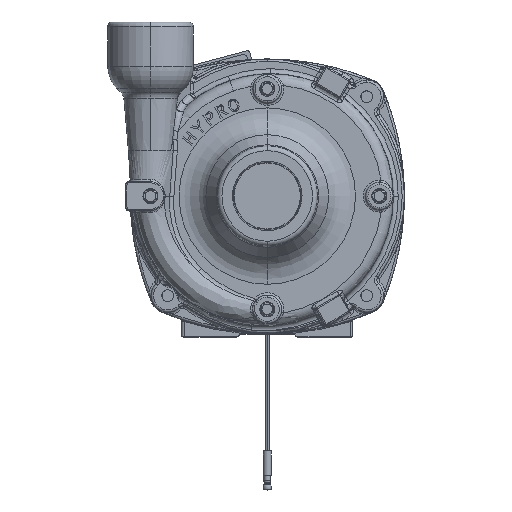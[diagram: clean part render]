
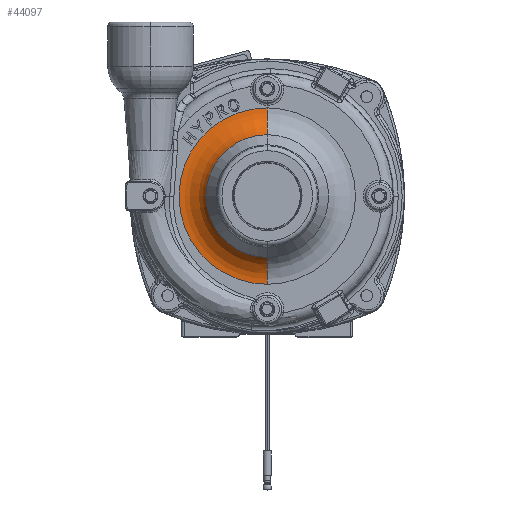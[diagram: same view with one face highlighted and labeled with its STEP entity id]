
A CAD part, top view. The second image highlights one B-rep face of the part: STEP entity #44097.
In plain terms, the highlighted toroidal (fillet/blend) face has major radius 58.725 mm and minor radius 20.637 mm.
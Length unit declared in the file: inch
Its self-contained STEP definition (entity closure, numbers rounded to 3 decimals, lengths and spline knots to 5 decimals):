
#425 = DIRECTION ( 'NONE',  ( 0., 0., -1. ) ) ;
#4830 = EDGE_CURVE ( 'NONE', #12816, #150377, #144360, .T. ) ;
#12426 = DIRECTION ( 'NONE',  ( 0., 0., 1. ) ) ;
#12816 = VERTEX_POINT ( 'NONE', #21680 ) ;
#16632 = CIRCLE ( 'NONE', #116220, 2.312 ) ;
#16841 = EDGE_LOOP ( 'NONE', ( #26885, #57496, #46755, #150636 ) ) ;
#21680 = CARTESIAN_POINT ( 'NONE',  ( 0., -1.60835, 1.71875 ) ) ;
#24569 = DIRECTION ( 'NONE',  ( 0., 1., 0. ) ) ;
#26885 = ORIENTED_EDGE ( 'NONE', *, *, #88121, .F. ) ;
#30838 = CARTESIAN_POINT ( 'NONE',  ( 0., 0., 2.125 ) ) ;
#43820 = AXIS2_PLACEMENT_3D ( 'NONE', #79919, #150300, #24569 ) ;
#44097 = ADVANCED_FACE ( 'NONE', ( #54216 ), #154419, .F. ) ;
#46755 = ORIENTED_EDGE ( 'NONE', *, *, #4830, .T. ) ;
#50178 = CARTESIAN_POINT ( 'NONE',  ( 0., -2.312, 2.125 ) ) ;
#51314 = CIRCLE ( 'NONE', #118622, 0.8125 ) ;
#54216 = FACE_OUTER_BOUND ( 'NONE', #16841, .T. ) ;
#57496 = ORIENTED_EDGE ( 'NONE', *, *, #105628, .T. ) ;
#73679 = DIRECTION ( 'NONE',  ( 0., 0., -1. ) ) ;
#79919 = CARTESIAN_POINT ( 'NONE',  ( 0., 0., 1.71875 ) ) ;
#81882 = EDGE_CURVE ( 'NONE', #166208, #150377, #51314, .T. ) ;
#83328 = DIRECTION ( 'NONE',  ( -1., 0., 0. ) ) ;
#85615 = CARTESIAN_POINT ( 'NONE',  ( 0., 0., 1.3125 ) ) ;
#88121 = EDGE_CURVE ( 'NONE', #122903, #166208, #16632, .T. ) ;
#88574 = DIRECTION ( 'NONE',  ( 0., 1., 0. ) ) ;
#105628 = EDGE_CURVE ( 'NONE', #122903, #12816, #179622, .T. ) ;
#106728 = DIRECTION ( 'NONE',  ( 1., 0., 0. ) ) ;
#116220 = AXIS2_PLACEMENT_3D ( 'NONE', #85615, #425, #171649 ) ;
#118622 = AXIS2_PLACEMENT_3D ( 'NONE', #152430, #83328, #12426 ) ;
#120945 = AXIS2_PLACEMENT_3D ( 'NONE', #50178, #106728, #178959 ) ;
#122903 = VERTEX_POINT ( 'NONE', #156541 ) ;
#125003 = CARTESIAN_POINT ( 'NONE',  ( 0., 1.60835, 1.71875 ) ) ;
#144360 = CIRCLE ( 'NONE', #43820, 1.60835 ) ;
#144576 = AXIS2_PLACEMENT_3D ( 'NONE', #30838, #73679, #88574 ) ;
#150300 = DIRECTION ( 'NONE',  ( 0., 0., -1. ) ) ;
#150377 = VERTEX_POINT ( 'NONE', #125003 ) ;
#150636 = ORIENTED_EDGE ( 'NONE', *, *, #81882, .F. ) ;
#152430 = CARTESIAN_POINT ( 'NONE',  ( 0., 2.312, 2.125 ) ) ;
#154419 = TOROIDAL_SURFACE ( 'NONE', #144576, 2.312, 0.8125 ) ;
#155978 = CARTESIAN_POINT ( 'NONE',  ( 0., 2.312, 1.3125 ) ) ;
#156541 = CARTESIAN_POINT ( 'NONE',  ( 0., -2.312, 1.3125 ) ) ;
#166208 = VERTEX_POINT ( 'NONE', #155978 ) ;
#171649 = DIRECTION ( 'NONE',  ( 0., 1., 0. ) ) ;
#178959 = DIRECTION ( 'NONE',  ( 0., 1., 0. ) ) ;
#179622 = CIRCLE ( 'NONE', #120945, 0.8125 ) ;
